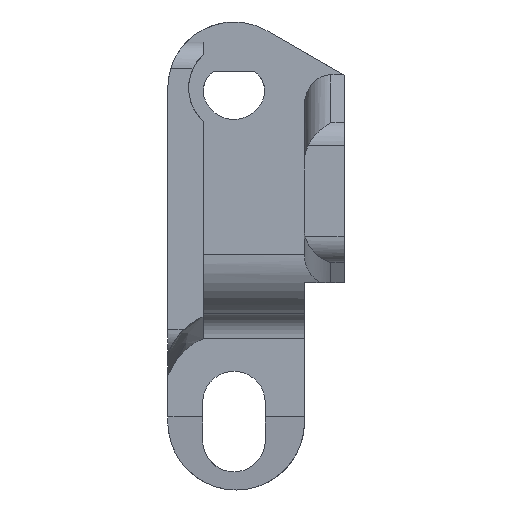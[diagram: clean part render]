
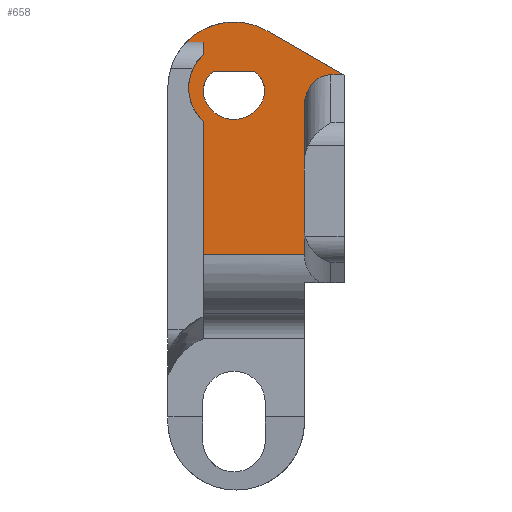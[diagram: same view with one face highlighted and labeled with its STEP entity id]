
A CAD part, left-side view. The second image highlights one B-rep face of the part: STEP entity #658.
In plain terms, the highlighted planar face has unit normal (-1, 0, 0).
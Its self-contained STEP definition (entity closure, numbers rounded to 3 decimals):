
#68 = EDGE_CURVE ( 'NONE', #314, #87, #2108, .T. ) ;
#87 = VERTEX_POINT ( 'NONE', #2088 ) ;
#279 = VERTEX_POINT ( 'NONE', #2819 ) ;
#308 = EDGE_CURVE ( 'NONE', #310, #279, #2876, .T. ) ;
#310 = VERTEX_POINT ( 'NONE', #2750 ) ;
#314 = VERTEX_POINT ( 'NONE', #2730 ) ;
#533 = ORIENTED_EDGE ( 'NONE', *, *, #534, .F. ) ;
#534 = EDGE_CURVE ( 'NONE', #314, #978, #2952, .T. ) ;
#536 = ORIENTED_EDGE ( 'NONE', *, *, #648, .T. ) ;
#538 = EDGE_CURVE ( 'NONE', #869, #640, #2939, .T. ) ;
#540 = EDGE_CURVE ( 'NONE', #279, #869, #2817, .T. ) ;
#555 = VERTEX_POINT ( 'NONE', #2810 ) ;
#564 = EDGE_LOOP ( 'NONE', ( #651, #659, #655, #874, #871 ) ) ;
#606 = EDGE_CURVE ( 'NONE', #1061, #310, #2978, .T. ) ;
#608 = ORIENTED_EDGE ( 'NONE', *, *, #540, .F. ) ;
#610 = ORIENTED_EDGE ( 'NONE', *, *, #606, .F. ) ;
#630 = EDGE_LOOP ( 'NONE', ( #632, #533, #638, #635, #634, #536, #647, #608, #649, #610 ) ) ;
#631 = EDGE_CURVE ( 'NONE', #633, #87, #2976, .T. ) ;
#632 = ORIENTED_EDGE ( 'NONE', *, *, #1058, .T. ) ;
#633 = VERTEX_POINT ( 'NONE', #2960 ) ;
#634 = ORIENTED_EDGE ( 'NONE', *, *, #643, .F. ) ;
#635 = ORIENTED_EDGE ( 'NONE', *, *, #631, .F. ) ;
#638 = ORIENTED_EDGE ( 'NONE', *, *, #68, .T. ) ;
#640 = VERTEX_POINT ( 'NONE', #2961 ) ;
#643 = EDGE_CURVE ( 'NONE', #555, #633, #3030, .T. ) ;
#647 = ORIENTED_EDGE ( 'NONE', *, *, #538, .F. ) ;
#648 = EDGE_CURVE ( 'NONE', #555, #640, #3023, .T. ) ;
#649 = ORIENTED_EDGE ( 'NONE', *, *, #308, .F. ) ;
#651 = ORIENTED_EDGE ( 'NONE', *, *, #661, .F. ) ;
#655 = ORIENTED_EDGE ( 'NONE', *, *, #867, .F. ) ;
#658 = ADVANCED_FACE ( 'NONE', ( #3027, #3034 ), #3016, .T. ) ;
#659 = ORIENTED_EDGE ( 'NONE', *, *, #660, .F. ) ;
#660 = EDGE_CURVE ( 'NONE', #662, #663, #3108, .T. ) ;
#661 = EDGE_CURVE ( 'NONE', #663, #1960, #3109, .T. ) ;
#662 = VERTEX_POINT ( 'NONE', #3029 ) ;
#663 = VERTEX_POINT ( 'NONE', #3002 ) ;
#867 = EDGE_CURVE ( 'NONE', #868, #662, #3324, .T. ) ;
#868 = VERTEX_POINT ( 'NONE', #3223 ) ;
#869 = VERTEX_POINT ( 'NONE', #3311 ) ;
#871 = ORIENTED_EDGE ( 'NONE', *, *, #1961, .F. ) ;
#872 = EDGE_CURVE ( 'NONE', #1959, #868, #3312, .T. ) ;
#874 = ORIENTED_EDGE ( 'NONE', *, *, #872, .F. ) ;
#978 = VERTEX_POINT ( 'NONE', #2575 ) ;
#1058 = EDGE_CURVE ( 'NONE', #1061, #978, #2661, .T. ) ;
#1061 = VERTEX_POINT ( 'NONE', #2640 ) ;
#1090 = CARTESIAN_POINT ( 'NONE',  ( -19.842, -7.5, 45.6 ) ) ;
#1091 = CARTESIAN_POINT ( 'NONE',  ( -19.842, -4.283, 44.1 ) ) ;
#1093 = CARTESIAN_POINT ( 'NONE',  ( -19.842, -7.5, 42.05 ) ) ;
#1100 = CIRCLE ( 'NONE', #1102, 3.55 ) ;
#1102 = AXIS2_PLACEMENT_3D ( 'NONE', #1090, #1243, #1242 ) ;
#1242 = DIRECTION ( 'NONE',  ( 0., 0., 1. ) ) ;
#1243 = DIRECTION ( 'NONE',  ( -1., 0., 0. ) ) ;
#1959 = VERTEX_POINT ( 'NONE', #1093 ) ;
#1960 = VERTEX_POINT ( 'NONE', #1091 ) ;
#1961 = EDGE_CURVE ( 'NONE', #1960, #1959, #1100, .T. ) ;
#2088 = CARTESIAN_POINT ( 'NONE',  ( -19.842, -4., 26.764 ) ) ;
#2102 = VECTOR ( 'NONE', #2109, 1000. ) ;
#2108 = LINE ( 'NONE', #2110, #2102 ) ;
#2109 = DIRECTION ( 'NONE',  ( 0., 0., -1. ) ) ;
#2110 = CARTESIAN_POINT ( 'NONE',  ( -19.842, -4., 53.1 ) ) ;
#2575 = CARTESIAN_POINT ( 'NONE',  ( -19.842, -4., 49.378 ) ) ;
#2640 = CARTESIAN_POINT ( 'NONE',  ( -19.842, -4., 50.82 ) ) ;
#2661 = LINE ( 'NONE', #2666, #2665 ) ;
#2664 = DIRECTION ( 'NONE',  ( 0., 0., -1. ) ) ;
#2665 = VECTOR ( 'NONE', #2664, 1000. ) ;
#2666 = CARTESIAN_POINT ( 'NONE',  ( -19.842, -4., 53.1 ) ) ;
#2730 = CARTESIAN_POINT ( 'NONE',  ( -19.842, -4., 41.822 ) ) ;
#2743 = DIRECTION ( 'NONE',  ( 0., 0., 1. ) ) ;
#2744 = DIRECTION ( 'NONE',  ( 1., 0., 0. ) ) ;
#2745 = CARTESIAN_POINT ( 'NONE',  ( -19.842, -7.5, 45.6 ) ) ;
#2750 = CARTESIAN_POINT ( 'NONE',  ( -19.842, -2.115, 50.82 ) ) ;
#2810 = CARTESIAN_POINT ( 'NONE',  ( -19.842, -15.5, 43.636 ) ) ;
#2814 = DIRECTION ( 'NONE',  ( 0., -0.866, -0.5 ) ) ;
#2815 = VECTOR ( 'NONE', #2814, 1000. ) ;
#2816 = CARTESIAN_POINT ( 'NONE',  ( -19.842, -6.365, 54.916 ) ) ;
#2817 = LINE ( 'NONE', #2816, #2815 ) ;
#2819 = CARTESIAN_POINT ( 'NONE',  ( -19.842, -11.25, 52.095 ) ) ;
#2872 = AXIS2_PLACEMENT_3D ( 'NONE', #2745, #2744, #2743 ) ;
#2876 = CIRCLE ( 'NONE', #2872, 7.5 ) ;
#2918 = AXIS2_PLACEMENT_3D ( 'NONE', #2936, #2935, #2934 ) ;
#2931 = DIRECTION ( 'NONE',  ( 0., 1., 0. ) ) ;
#2932 = VECTOR ( 'NONE', #2931, 1000. ) ;
#2933 = CARTESIAN_POINT ( 'NONE',  ( -19.842, -20., 47.1 ) ) ;
#2934 = DIRECTION ( 'NONE',  ( 0., 0., -1. ) ) ;
#2935 = DIRECTION ( 'NONE',  ( 1., 0., 0. ) ) ;
#2936 = CARTESIAN_POINT ( 'NONE',  ( -19.842, -7.5, 45.6 ) ) ;
#2939 = LINE ( 'NONE', #2933, #2932 ) ;
#2952 = CIRCLE ( 'NONE', #2918, 5.15 ) ;
#2959 = CARTESIAN_POINT ( 'NONE',  ( -19.842, -15.5, 53.1 ) ) ;
#2960 = CARTESIAN_POINT ( 'NONE',  ( -19.842, -15.5, 26.764 ) ) ;
#2961 = CARTESIAN_POINT ( 'NONE',  ( -19.842, -18.5, 47.1 ) ) ;
#2972 = DIRECTION ( 'NONE',  ( 0., 1., 0. ) ) ;
#2973 = VECTOR ( 'NONE', #2972, 1000. ) ;
#2976 = LINE ( 'NONE', #3033, #3032 ) ;
#2977 = CARTESIAN_POINT ( 'NONE',  ( -19.842, -4., 50.82 ) ) ;
#2978 = LINE ( 'NONE', #2977, #2973 ) ;
#3002 = CARTESIAN_POINT ( 'NONE',  ( -19.842, -5.136, 47.52 ) ) ;
#3005 = DIRECTION ( 'NONE',  ( 0., 0., 1. ) ) ;
#3006 = DIRECTION ( 'NONE',  ( -1., 0., 0. ) ) ;
#3007 = CARTESIAN_POINT ( 'NONE',  ( -19.842, -6.82, 45.283 ) ) ;
#3011 = DIRECTION ( 'NONE',  ( 0., 1., 0. ) ) ;
#3012 = VECTOR ( 'NONE', #3011, 1000. ) ;
#3013 = CARTESIAN_POINT ( 'NONE',  ( -19.842, -4., 47.52 ) ) ;
#3016 = PLANE ( 'NONE',  #3024 ) ;
#3017 = CARTESIAN_POINT ( 'NONE',  ( -19.842, -18.5, 47.1 ) ) ;
#3018 = CARTESIAN_POINT ( 'NONE',  ( -19.842, -16.743, 47.1 ) ) ;
#3019 = CARTESIAN_POINT ( 'NONE',  ( -19.842, -15.5, 45.665 ) ) ;
#3020 = CARTESIAN_POINT ( 'NONE',  ( -19.842, -15.5, 43.636 ) ) ;
#3021 = DIRECTION ( 'NONE',  ( -1., 0., 0. ) ) ;
#3022 = CARTESIAN_POINT ( 'NONE',  ( -19.842, -4., 50.82 ) ) ;
#3023 =( BOUNDED_CURVE ( )  B_SPLINE_CURVE ( 3, ( #3020, #3019, #3018, #3017 ),
 .UNSPECIFIED., .F., .T. ) 
 B_SPLINE_CURVE_WITH_KNOTS ( ( 4, 4 ),
 ( 1.571, 3.142 ),
 .UNSPECIFIED. ) 
 CURVE ( )  GEOMETRIC_REPRESENTATION_ITEM ( )  RATIONAL_B_SPLINE_CURVE ( ( 1., 0.805, 0.805, 1. ) ) 
 REPRESENTATION_ITEM ( '' )  );
#3024 = AXIS2_PLACEMENT_3D ( 'NONE', #3022, #3021, #3107 ) ;
#3025 = DIRECTION ( 'NONE',  ( 0., 0., -1. ) ) ;
#3026 = VECTOR ( 'NONE', #3025, 1000. ) ;
#3027 = FACE_BOUND ( 'NONE', #564, .T. ) ;
#3029 = CARTESIAN_POINT ( 'NONE',  ( -19.842, -9.864, 47.52 ) ) ;
#3030 = LINE ( 'NONE', #2959, #3026 ) ;
#3031 = DIRECTION ( 'NONE',  ( 0., 1., 0. ) ) ;
#3032 = VECTOR ( 'NONE', #3031, 1000. ) ;
#3033 = CARTESIAN_POINT ( 'NONE',  ( -19.842, -15.5, 26.764 ) ) ;
#3034 = FACE_OUTER_BOUND ( 'NONE', #630, .T. ) ;
#3107 = DIRECTION ( 'NONE',  ( 0., 0., 1. ) ) ;
#3108 = LINE ( 'NONE', #3013, #3012 ) ;
#3109 = CIRCLE ( 'NONE', #3111, 2.8 ) ;
#3111 = AXIS2_PLACEMENT_3D ( 'NONE', #3007, #3006, #3005 ) ;
#3221 = CARTESIAN_POINT ( 'NONE',  ( -19.842, -8.18, 45.283 ) ) ;
#3223 = CARTESIAN_POINT ( 'NONE',  ( -19.842, -10.717, 44.1 ) ) ;
#3304 = DIRECTION ( 'NONE',  ( 0., 0., 1. ) ) ;
#3305 = DIRECTION ( 'NONE',  ( -1., 0., 0. ) ) ;
#3306 = CARTESIAN_POINT ( 'NONE',  ( -19.842, -7.5, 45.6 ) ) ;
#3307 = AXIS2_PLACEMENT_3D ( 'NONE', #3306, #3305, #3304 ) ;
#3311 = CARTESIAN_POINT ( 'NONE',  ( -19.842, -19.902, 47.1 ) ) ;
#3312 = CIRCLE ( 'NONE', #3307, 3.55 ) ;
#3313 = DIRECTION ( 'NONE',  ( 0., 0., 1. ) ) ;
#3314 = DIRECTION ( 'NONE',  ( -1., 0., 0. ) ) ;
#3315 = AXIS2_PLACEMENT_3D ( 'NONE', #3221, #3314, #3313 ) ;
#3324 = CIRCLE ( 'NONE', #3315, 2.8 ) ;
